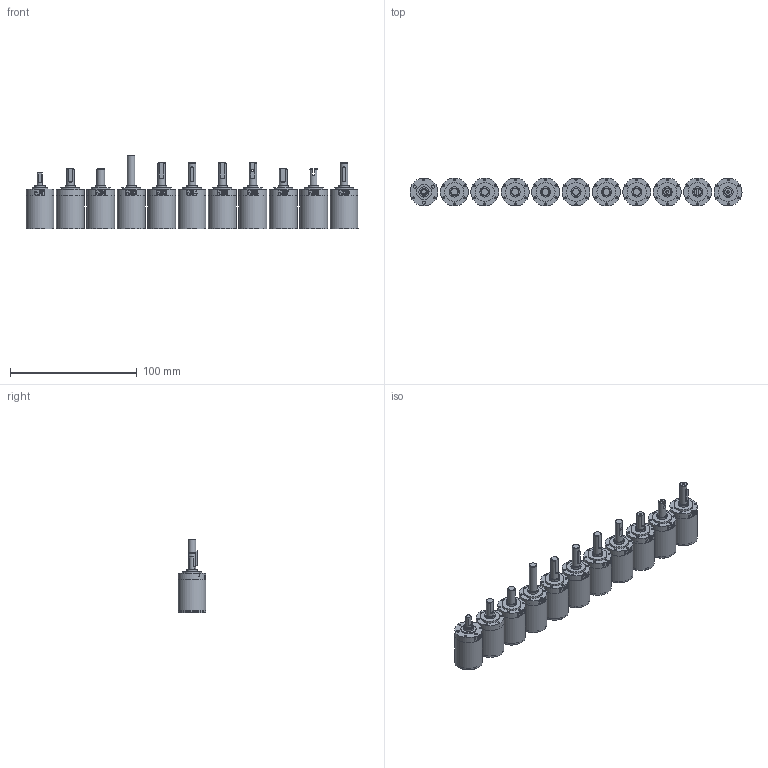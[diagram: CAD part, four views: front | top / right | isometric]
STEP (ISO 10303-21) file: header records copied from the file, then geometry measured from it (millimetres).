
FILE_DESCRIPTION(/* description */ (''),/* implementation_level */ '2;1');
FILE_NAME(/* name */ '22gpt-3stage_standard+KSx+KRx.x_t.stp',/* time_stamp */ '2023-02-02T07:52:22+01:00',/* author */ ('DR. FRITZ FAULHABER GmbH & Co. KG'),/* organization */ ('DR. FRITZ FAULHABER GmbH & Co. KG'),/* preprocessor_version */ 'ST-DEVELOPER v16.7',/* originating_system */ 'SIEMENS PLM Software NX 1919',/* authorisation */ '');
FILE_SCHEMA (('AUTOMOTIVE_DESIGN { 1 0 10303 214 3 1 1 1 }'));
Length unit declared in the file: millimetre
Products named in the file (1): H99999998-A-Alle Getriebe
Bounding box: 262 x 22 x 57.8 mm (x, y, z)
Volume: 127430.5 mm3; surface area: 40189.7 mm2
Topology: 11 solids, 11 shells, 683 faces, 1384 edges, 927 vertices
Faces by surface type: plane 320, cylinder 220, bspline 127, cone 16
Full cylindrical faces by diameter (mm): 1.6 x63, 2 x1, 2.05 x2, 2.5 x3, 4 x1, 6 x10, 8 x11, 10.068 x11, 12 x12, 15 x10, 20.8 x11, 21 x11, 21.999 x11, 22 x22
Entity records: 32649 total; most frequent: CARTESIAN_POINT 18719, ORIENTED_EDGE 2332, DIRECTION 2183, EDGE_CURVE 1166, EDGE_LOOP 1079, AXIS2_PLACEMENT_3D 1006, VERTEX_POINT 901, FACE_BOUND 696
